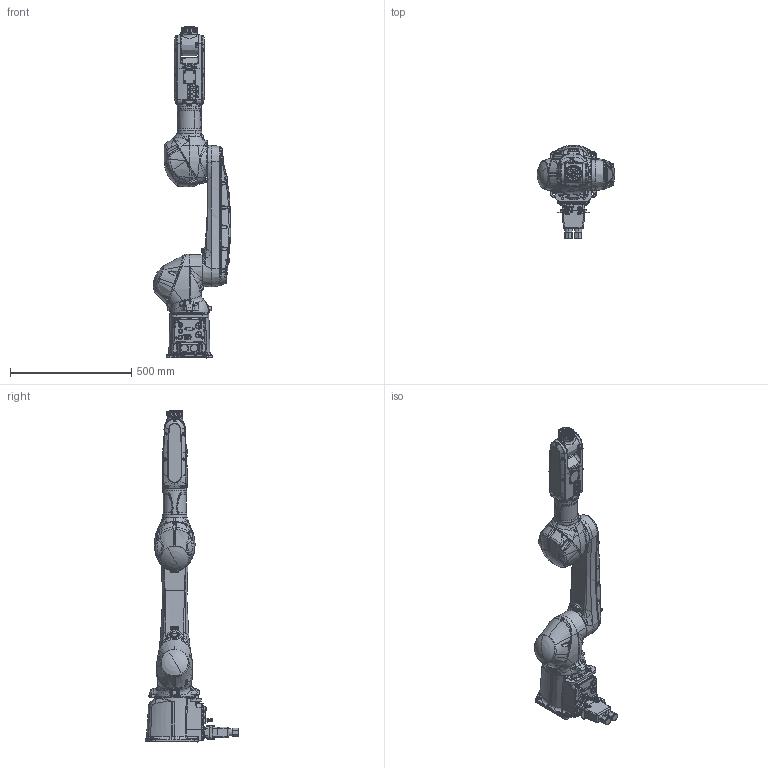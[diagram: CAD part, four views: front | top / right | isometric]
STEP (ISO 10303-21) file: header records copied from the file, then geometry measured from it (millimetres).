
FILE_DESCRIPTION(('CATIA V5 STEP Exchange'),'2;1');
FILE_NAME('D:\モデリング\☆☆☆STEP\RS\RS007\RS007L\RS007L-BC01_201002\軽量化\Part\Part\RS007L-BC01.stp','2020-10-02T07:31:04+00:00',('none'),('none'),'CATIA Version 5-6 Release 2016 SP6 HF14','CATIA V5 STEP AP203','none');
FILE_SCHEMA(('CONFIG_CONTROL_DESIGN'));
Products named in the file (1): RS007L-BC01
Assembly tree (7 placements, depth 2):
  RS007L-BC01
    #57
    #55874
    #91741
    #142398
    #194390
    #245617
    #260488
Bounding box: 318.15 x 386.37 x 1368 mm (x, y, z)
Volume: 24063685.9 mm3; surface area: 1071211.8 mm2
Topology: 8 solids, 8 shells, 4907 faces, 12082 edges, 7292 vertices
Faces by surface type: bspline 1654, plane 1324, cylinder 1229, cone 312, torus 237, sphere 74, extrusion 41, revolution 36
Entity records: 262575 total; most frequent: CARTESIAN_POINT 167778, ORIENTED_EDGE 23724, EDGE_CURVE 11862, DIRECTION 11401, VERTEX_POINT 7292, B_SPLINE_CURVE_WITH_KNOTS 5700, AXIS2_PLACEMENT_3D 5288, EDGE_LOOP 5261
